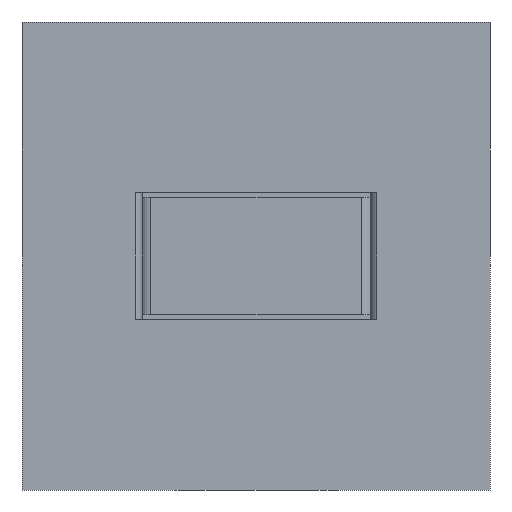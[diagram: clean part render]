
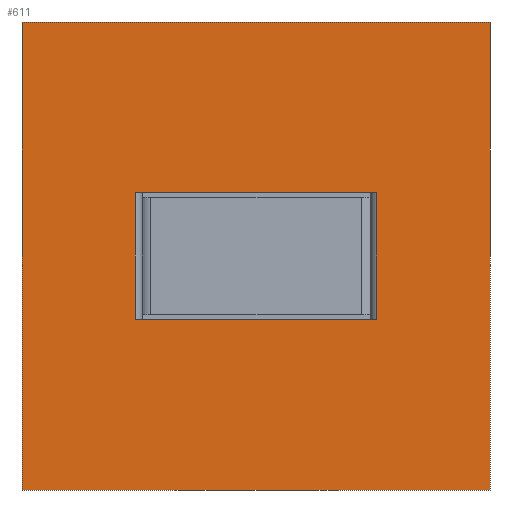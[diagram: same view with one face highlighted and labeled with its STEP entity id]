
A CAD part, front view. The second image highlights one B-rep face of the part: STEP entity #611.
In plain terms, the highlighted planar face has unit normal (0, -1, 0).
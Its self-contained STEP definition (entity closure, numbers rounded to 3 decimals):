
#3 = DIRECTION ( 'NONE',  ( 0., 0., 1. ) ) ;
#47 = CARTESIAN_POINT ( 'NONE',  ( 5.15, -10., -2.7 ) ) ;
#67 = DIRECTION ( 'NONE',  ( 0., 0., 1. ) ) ;
#115 = VECTOR ( 'NONE', #3, 1000. ) ;
#166 = EDGE_CURVE ( 'NONE', #1652, #770, #695, .T. ) ;
#185 = DIRECTION ( 'NONE',  ( 0., 0., -1. ) ) ;
#220 = DIRECTION ( 'NONE',  ( 1., 0., 0. ) ) ;
#227 = LINE ( 'NONE', #579, #1786 ) ;
#236 = VERTEX_POINT ( 'NONE', #544 ) ;
#260 = VERTEX_POINT ( 'NONE', #1279 ) ;
#262 = ORIENTED_EDGE ( 'NONE', *, *, #1152, .F. ) ;
#302 = CARTESIAN_POINT ( 'NONE',  ( -5.15, -10., -2.7 ) ) ;
#315 = VECTOR ( 'NONE', #220, 1000. ) ;
#316 = FACE_OUTER_BOUND ( 'NONE', #1018, .T. ) ;
#429 = DIRECTION ( 'NONE',  ( 0., 1., 0. ) ) ;
#458 = LINE ( 'NONE', #985, #881 ) ;
#464 = AXIS2_PLACEMENT_3D ( 'NONE', #891, #429, #1469 ) ;
#469 = VERTEX_POINT ( 'NONE', #302 ) ;
#484 = LINE ( 'NONE', #619, #1679 ) ;
#487 = VECTOR ( 'NONE', #1860, 1000. ) ;
#544 = CARTESIAN_POINT ( 'NONE',  ( 10., -10., 10. ) ) ;
#557 = EDGE_CURVE ( 'NONE', #773, #260, #227, .T. ) ;
#572 = LINE ( 'NONE', #1818, #115 ) ;
#579 = CARTESIAN_POINT ( 'NONE',  ( 5.15, -10., 2.7 ) ) ;
#583 = DIRECTION ( 'NONE',  ( 1., 0., 0. ) ) ;
#584 = EDGE_CURVE ( 'NONE', #809, #236, #1175, .T. ) ;
#611 = ADVANCED_FACE ( 'NONE', ( #1070, #316 ), #1317, .F. ) ;
#619 = CARTESIAN_POINT ( 'NONE',  ( -10., -10., 10. ) ) ;
#641 = CARTESIAN_POINT ( 'NONE',  ( -5.15, -10., 2.7 ) ) ;
#695 = LINE ( 'NONE', #1124, #315 ) ;
#744 = EDGE_LOOP ( 'NONE', ( #1052, #262, #1418, #1564 ) ) ;
#770 = VERTEX_POINT ( 'NONE', #1524 ) ;
#773 = VERTEX_POINT ( 'NONE', #641 ) ;
#809 = VERTEX_POINT ( 'NONE', #903 ) ;
#846 = CARTESIAN_POINT ( 'NONE',  ( 5.15, -10., -2.7 ) ) ;
#881 = VECTOR ( 'NONE', #67, 1000. ) ;
#890 = ORIENTED_EDGE ( 'NONE', *, *, #584, .F. ) ;
#891 = CARTESIAN_POINT ( 'NONE',  ( -10., -10., 10. ) ) ;
#903 = CARTESIAN_POINT ( 'NONE',  ( -10., -10., 10. ) ) ;
#947 = EDGE_CURVE ( 'NONE', #469, #773, #572, .T. ) ;
#957 = DIRECTION ( 'NONE',  ( 0., 0., -1. ) ) ;
#985 = CARTESIAN_POINT ( 'NONE',  ( 5.15, -10., -2.7 ) ) ;
#1018 = EDGE_LOOP ( 'NONE', ( #1247, #1160, #890, #1725 ) ) ;
#1028 = VECTOR ( 'NONE', #957, 1000. ) ;
#1052 = ORIENTED_EDGE ( 'NONE', *, *, #1446, .F. ) ;
#1056 = CARTESIAN_POINT ( 'NONE',  ( -10., -10., -10. ) ) ;
#1070 = FACE_BOUND ( 'NONE', #744, .T. ) ;
#1107 = EDGE_CURVE ( 'NONE', #236, #770, #1421, .T. ) ;
#1124 = CARTESIAN_POINT ( 'NONE',  ( -10., -10., -10. ) ) ;
#1152 = EDGE_CURVE ( 'NONE', #469, #1462, #1684, .T. ) ;
#1160 = ORIENTED_EDGE ( 'NONE', *, *, #1107, .F. ) ;
#1175 = LINE ( 'NONE', #1929, #1510 ) ;
#1247 = ORIENTED_EDGE ( 'NONE', *, *, #166, .T. ) ;
#1279 = CARTESIAN_POINT ( 'NONE',  ( 5.15, -10., 2.7 ) ) ;
#1317 = PLANE ( 'NONE',  #464 ) ;
#1384 = CARTESIAN_POINT ( 'NONE',  ( 10., -10., 10. ) ) ;
#1418 = ORIENTED_EDGE ( 'NONE', *, *, #947, .T. ) ;
#1421 = LINE ( 'NONE', #1384, #1028 ) ;
#1446 = EDGE_CURVE ( 'NONE', #1462, #260, #458, .T. ) ;
#1462 = VERTEX_POINT ( 'NONE', #846 ) ;
#1469 = DIRECTION ( 'NONE',  ( 0., 0., 1. ) ) ;
#1510 = VECTOR ( 'NONE', #583, 1000. ) ;
#1524 = CARTESIAN_POINT ( 'NONE',  ( 10., -10., -10. ) ) ;
#1564 = ORIENTED_EDGE ( 'NONE', *, *, #557, .T. ) ;
#1651 = EDGE_CURVE ( 'NONE', #809, #1652, #484, .T. ) ;
#1652 = VERTEX_POINT ( 'NONE', #1056 ) ;
#1679 = VECTOR ( 'NONE', #185, 1000. ) ;
#1684 = LINE ( 'NONE', #47, #487 ) ;
#1725 = ORIENTED_EDGE ( 'NONE', *, *, #1651, .T. ) ;
#1780 = DIRECTION ( 'NONE',  ( 1., 0., 0. ) ) ;
#1786 = VECTOR ( 'NONE', #1780, 1000. ) ;
#1818 = CARTESIAN_POINT ( 'NONE',  ( -5.15, -10., -2.7 ) ) ;
#1860 = DIRECTION ( 'NONE',  ( 1., 0., 0. ) ) ;
#1929 = CARTESIAN_POINT ( 'NONE',  ( -10., -10., 10. ) ) ;
